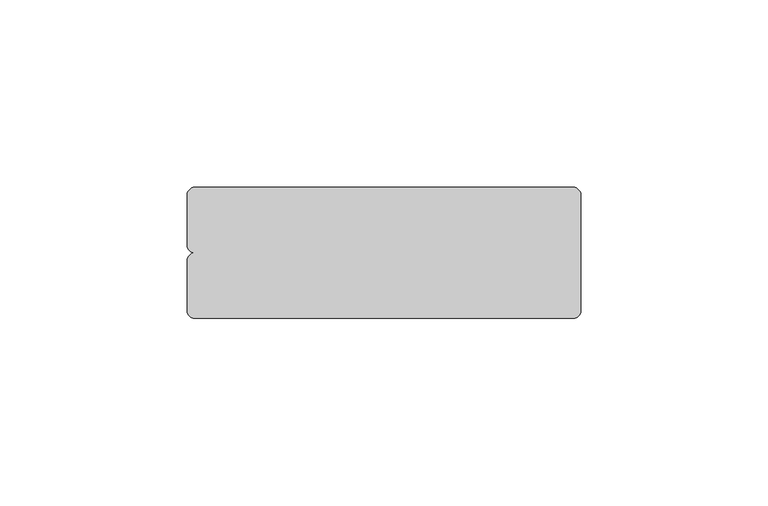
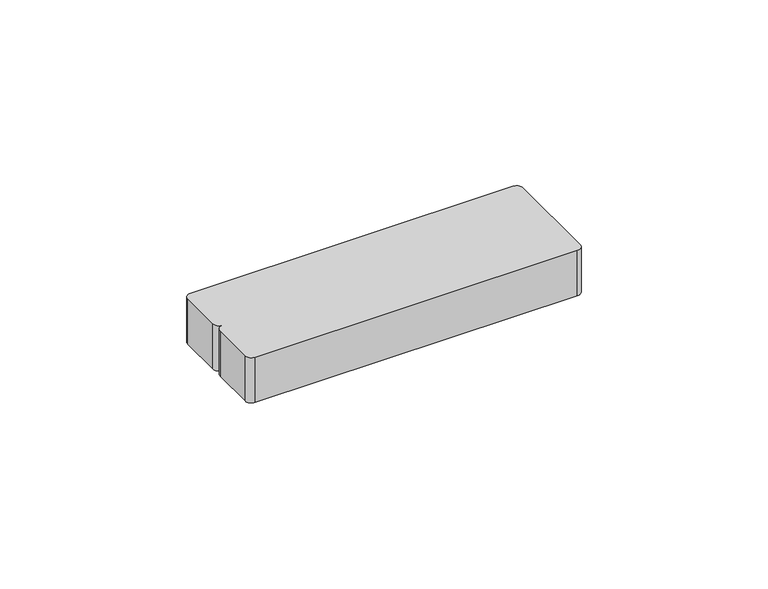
"""IFC4 building model written with IfcOpenShell, lengths in millimetres: duct fitting geometry, Заглушка торцевая - для кабель-каналов DLP - белый : 35x105мм."""

from ifc_helpers import new_model, si_unit, point, frame_2d, origin, origin_with_axes, place, context, project, spatial, polyline, circle_curve, trimmed, segment, composite_curve, outline, extrude, source, transform, mapped, element, save


def duct_fitting_b39508ff(model_context):
    return source(origin(), model_context, "Body", "SweptSolid", [
        extrude(outline(composite_curve([segment(trimmed(circle_curve(frame_2d((-50.5, -2.0)), 2.0), [point((-52.5, -2.0))], [point((-50.5, 0.0))], False, "CARTESIAN"), True, "CONTINUOUS"), segment(trimmed(circle_curve(frame_2d((-50.5, 2.0)), 2.0), [point((-50.5, 0.0))], [point((-52.5, 2.0))], False, "CARTESIAN"), True, "CONTINUOUS"), segment(polyline([(-52.5, 2.0), (-52.5, 15.5)]), True, "CONTINUOUS"), segment(trimmed(circle_curve(frame_2d((-50.5, 15.5)), 2.0), [point((-52.5, 15.5))], [point((-50.5, 17.5))], False, "CARTESIAN"), True, "CONTINUOUS"), segment(polyline([(-50.5, 17.5), (50.5, 17.5)]), True, "CONTINUOUS"), segment(trimmed(circle_curve(frame_2d((50.5, 15.5)), 2.0), [point((50.5, 17.5))], [point((52.5, 15.5))], False, "CARTESIAN"), True, "CONTINUOUS"), segment(polyline([(52.5, 15.5), (52.5, -15.5)]), True, "CONTINUOUS"), segment(trimmed(circle_curve(frame_2d((50.5, -15.5)), 2.0), [point((52.5, -15.5))], [point((50.5, -17.5))], False, "CARTESIAN"), True, "CONTINUOUS"), segment(polyline([(50.5, -17.5), (-50.5, -17.5)]), True, "CONTINUOUS"), segment(trimmed(circle_curve(frame_2d((-50.5, -15.5)), 2.0), [point((-50.5, -17.5))], [point((-52.5, -15.5))], False, "CARTESIAN"), True, "CONTINUOUS"), segment(polyline([(-52.5, -15.5), (-52.5, -2.0)]), True, "CONTINUOUS")], self_intersect=False)), origin_with_axes(), (0.0, 0.0, 1.0), 15.0),
    ])


if __name__ == "__main__":
    model = new_model("IFC4")
    model_context = context("Model", 3, world=origin())
    ifc_project = project(units=[si_unit("LENGTHUNIT", "METRE", prefix="MILLI")], contexts=[model_context])
    site = spatial("IfcSite", under=ifc_project)
    building = spatial("IfcBuilding", under=site)
    placement = place(None, origin())
    duct_fitting_shape = duct_fitting_b39508ff(model_context)
    element("IfcDuctFitting", 1, ObjectType="Заглушка торцевая - для кабель-каналов DLP - белый : 35x105мм", at=placement, inside=building, context=model_context, shape_type="MappedRepresentation", body=[
        mapped(duct_fitting_shape, transform((0.0, 0.0, 0.0), x_axis=(1.0, 0.0, 0.0), y_axis=(0.0, 1.0, 0.0), z_axis=(0.0, 0.0, 1.0))),
    ])
    save(model, "model.ifc")
